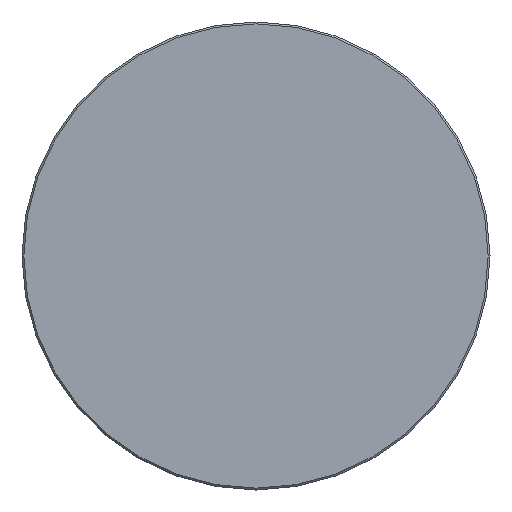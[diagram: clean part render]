
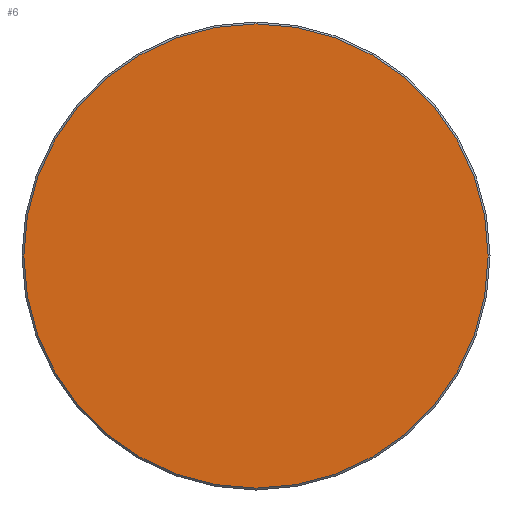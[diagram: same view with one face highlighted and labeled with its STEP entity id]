
A CAD part, left-side view. The second image highlights one B-rep face of the part: STEP entity #6.
In plain terms, the highlighted planar face has unit normal (-1, 0, 0).
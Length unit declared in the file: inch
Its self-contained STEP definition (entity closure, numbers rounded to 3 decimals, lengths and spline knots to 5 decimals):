
#6 = ADVANCED_FACE ( 'NONE', ( #227 ), #145, .T. ) ;
#29 = ORIENTED_EDGE ( 'NONE', *, *, #328, .T. ) ;
#37 = VERTEX_POINT ( 'NONE', #54 ) ;
#54 = CARTESIAN_POINT ( 'NONE',  ( 0., -0.496, 0. ) ) ;
#56 = AXIS2_PLACEMENT_3D ( 'NONE', #133, #68, #161 ) ;
#68 = DIRECTION ( 'NONE',  ( -1., 0., 0. ) ) ;
#78 = CARTESIAN_POINT ( 'NONE',  ( 0., 0., 0. ) ) ;
#116 = CARTESIAN_POINT ( 'NONE',  ( 0., 0., 0. ) ) ;
#133 = CARTESIAN_POINT ( 'NONE',  ( 0., 0., 0. ) ) ;
#135 = DIRECTION ( 'NONE',  ( -1., 0., 0. ) ) ;
#136 = AXIS2_PLACEMENT_3D ( 'NONE', #78, #135, #187 ) ;
#145 = PLANE ( 'NONE',  #245 ) ;
#161 = DIRECTION ( 'NONE',  ( 0., -1., 0. ) ) ;
#187 = DIRECTION ( 'NONE',  ( 0., -1., 0. ) ) ;
#198 = DIRECTION ( 'NONE',  ( 0., -1., 0. ) ) ;
#216 = VERTEX_POINT ( 'NONE', #267 ) ;
#218 = EDGE_CURVE ( 'NONE', #37, #216, #326, .T. ) ;
#227 = FACE_OUTER_BOUND ( 'NONE', #353, .T. ) ;
#245 = AXIS2_PLACEMENT_3D ( 'NONE', #116, #324, #198 ) ;
#267 = CARTESIAN_POINT ( 'NONE',  ( 0., 0.496, 0. ) ) ;
#272 = ORIENTED_EDGE ( 'NONE', *, *, #218, .T. ) ;
#324 = DIRECTION ( 'NONE',  ( -1., 0., 0. ) ) ;
#326 = CIRCLE ( 'NONE', #56, 0.496 ) ;
#328 = EDGE_CURVE ( 'NONE', #216, #37, #380, .T. ) ;
#353 = EDGE_LOOP ( 'NONE', ( #29, #272 ) ) ;
#380 = CIRCLE ( 'NONE', #136, 0.496 ) ;
